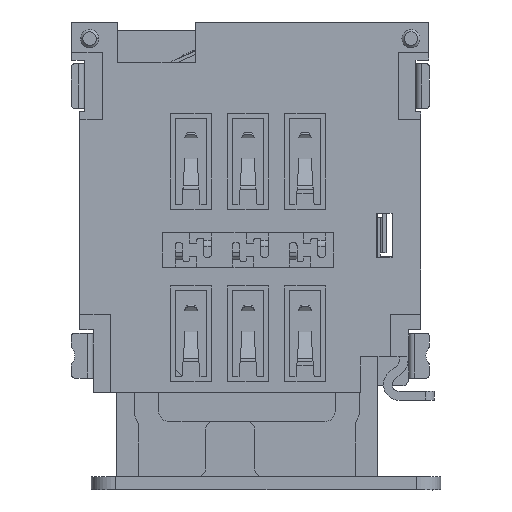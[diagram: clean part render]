
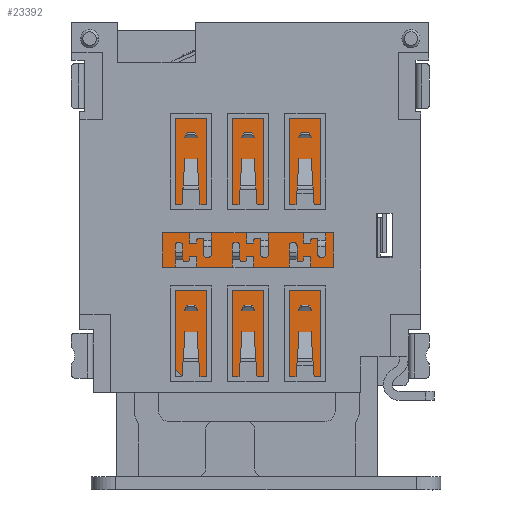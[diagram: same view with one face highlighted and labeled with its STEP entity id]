
A CAD part, left-side view. The second image highlights one B-rep face of the part: STEP entity #23392.
In plain terms, the highlighted planar face has unit normal (-1, 0, 0) as drawn and (0, 0, -1) by its records, which use the part's own axes.
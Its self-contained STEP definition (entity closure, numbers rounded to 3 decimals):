
#23195=DIRECTION('',(0.707,0.707,0.));
#23196=VECTOR('',#23195,1.671);
#23197=CARTESIAN_POINT('',(-4.166,4.734,0.));
#23198=LINE('',#23197,#23196);
#23199=CARTESIAN_POINT('',(-3.6,4.169,0.));
#23200=DIRECTION('',(0.,0.,-1.));
#23201=DIRECTION('',(-1.,0.,0.));
#23202=AXIS2_PLACEMENT_3D('',#23199,#23200,#23201);
#23204=DIRECTION('',(0.,1.,0.));
#23205=VECTOR('',#23204,9.519);
#23206=CARTESIAN_POINT('',(-4.4,-5.35,0.));
#23207=LINE('',#23206,#23205);
#23208=CARTESIAN_POINT('',(-3.6,-5.35,0.));
#23209=DIRECTION('',(0.,0.,-1.));
#23210=DIRECTION('',(0.,-1.,0.));
#23211=AXIS2_PLACEMENT_3D('',#23208,#23209,#23210);
#23213=DIRECTION('',(-1.,0.,0.));
#23214=VECTOR('',#23213,7.2);
#23215=CARTESIAN_POINT('',(3.6,-6.15,0.));
#23216=LINE('',#23215,#23214);
#23217=CARTESIAN_POINT('',(3.6,-5.35,0.));
#23218=DIRECTION('',(0.,0.,-1.));
#23219=DIRECTION('',(1.,0.,0.));
#23220=AXIS2_PLACEMENT_3D('',#23217,#23218,#23219);
#23222=DIRECTION('',(0.,-1.,0.));
#23223=VECTOR('',#23222,10.7);
#23224=CARTESIAN_POINT('',(4.4,5.35,0.));
#23225=LINE('',#23224,#23223);
#23226=CARTESIAN_POINT('',(3.6,5.35,0.));
#23227=DIRECTION('',(0.,0.,-1.));
#23228=DIRECTION('',(0.,1.,0.));
#23229=AXIS2_PLACEMENT_3D('',#23226,#23227,#23228);
#23231=DIRECTION('',(1.,0.,0.));
#23232=VECTOR('',#23231,6.019);
#23233=CARTESIAN_POINT('',(-2.419,6.15,0.));
#23234=LINE('',#23233,#23232);
#23235=CARTESIAN_POINT('',(-2.419,5.35,0.));
#23236=DIRECTION('',(0.,0.,-1.));
#23237=DIRECTION('',(-0.707,0.707,0.));
#23238=AXIS2_PLACEMENT_3D('',#23235,#23236,#23237);
#23325=CARTESIAN_POINT('',(-4.166,4.734,0.));
#23326=CARTESIAN_POINT('',(-2.984,5.916,0.));
#23327=VERTEX_POINT('',#23325);
#23328=VERTEX_POINT('',#23326);
#23329=CARTESIAN_POINT('',(-2.419,6.15,0.));
#23330=VERTEX_POINT('',#23329);
#23331=CARTESIAN_POINT('',(3.6,6.15,0.));
#23332=VERTEX_POINT('',#23331);
#23333=CARTESIAN_POINT('',(4.4,5.35,0.));
#23334=VERTEX_POINT('',#23333);
#23335=CARTESIAN_POINT('',(4.4,-5.35,0.));
#23336=VERTEX_POINT('',#23335);
#23337=CARTESIAN_POINT('',(3.6,-6.15,0.));
#23338=VERTEX_POINT('',#23337);
#23339=CARTESIAN_POINT('',(-3.6,-6.15,0.));
#23340=VERTEX_POINT('',#23339);
#23341=CARTESIAN_POINT('',(-4.4,-5.35,0.));
#23342=VERTEX_POINT('',#23341);
#23343=CARTESIAN_POINT('',(-4.4,4.169,0.));
#23344=VERTEX_POINT('',#23343);
#23365=CARTESIAN_POINT('',(0.,0.,0.));
#23366=DIRECTION('',(0.,0.,1.));
#23367=DIRECTION('',(1.,0.,0.));
#23368=AXIS2_PLACEMENT_3D('',#23365,#23366,#23367);
#23369=PLANE('',#23368);
#23371=ORIENTED_EDGE('',*,*,#23370,.F.);
#23373=ORIENTED_EDGE('',*,*,#23372,.F.);
#23375=ORIENTED_EDGE('',*,*,#23374,.F.);
#23377=ORIENTED_EDGE('',*,*,#23376,.F.);
#23379=ORIENTED_EDGE('',*,*,#23378,.F.);
#23381=ORIENTED_EDGE('',*,*,#23380,.F.);
#23383=ORIENTED_EDGE('',*,*,#23382,.F.);
#23385=ORIENTED_EDGE('',*,*,#23384,.F.);
#23387=ORIENTED_EDGE('',*,*,#23386,.F.);
#23389=ORIENTED_EDGE('',*,*,#23388,.F.);
#23390=EDGE_LOOP('',(#23371,#23373,#23375,#23377,#23379,#23381,#23383,#23385,
#23387,#23389));
#23391=FACE_OUTER_BOUND('',#23390,.F.);
#23203=CIRCLE('',#23202,0.8);
#23212=CIRCLE('',#23211,0.8);
#23221=CIRCLE('',#23220,0.8);
#23230=CIRCLE('',#23229,0.8);
#23239=CIRCLE('',#23238,0.8);
#23370=EDGE_CURVE('',#23327,#23328,#23198,.T.);
#23372=EDGE_CURVE('',#23344,#23327,#23203,.T.);
#23374=EDGE_CURVE('',#23342,#23344,#23207,.T.);
#23376=EDGE_CURVE('',#23340,#23342,#23212,.T.);
#23378=EDGE_CURVE('',#23338,#23340,#23216,.T.);
#23380=EDGE_CURVE('',#23336,#23338,#23221,.T.);
#23382=EDGE_CURVE('',#23334,#23336,#23225,.T.);
#23384=EDGE_CURVE('',#23332,#23334,#23230,.T.);
#23386=EDGE_CURVE('',#23330,#23332,#23234,.T.);
#23388=EDGE_CURVE('',#23328,#23330,#23239,.T.);
#23392=ADVANCED_FACE('',(#23391),#23369,.F.);
